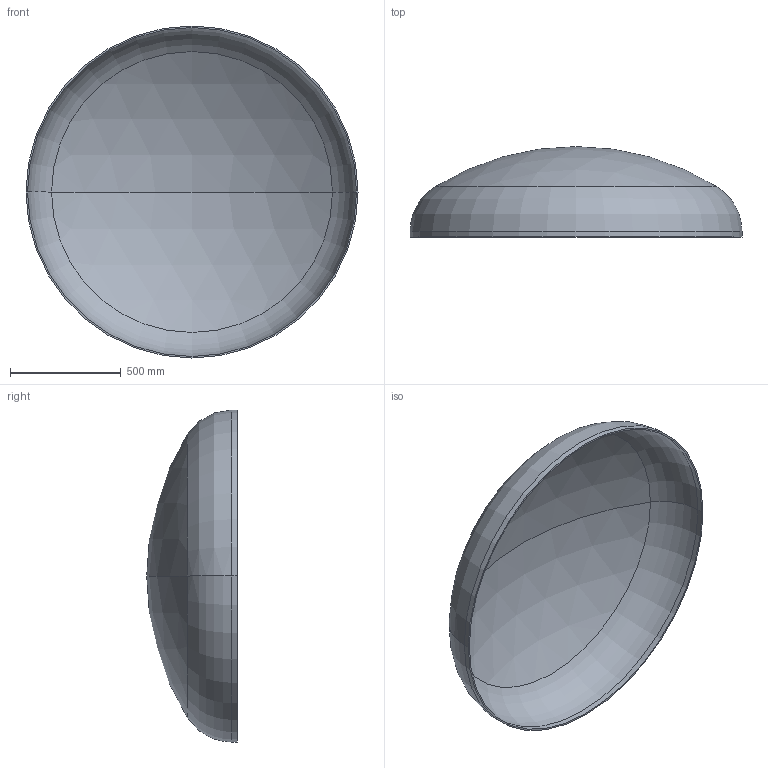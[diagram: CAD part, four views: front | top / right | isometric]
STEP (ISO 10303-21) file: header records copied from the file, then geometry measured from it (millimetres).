
FILE_DESCRIPTION (( 'STEP AP203' ), '1' );
FILE_NAME ('DIN 28013 Korbbogenform_-_Boden DIN 28013 - 1500 x 25 - I - s=7.step', '2016-07-01T10:34:08', ( '' ), ( '' ), 'SwSTEP 2.0', 'SolidWorks 2013', '' );
FILE_SCHEMA (( 'CONFIG_CONTROL_DESIGN' ));
Length unit declared in the file: millimetre
Products named in the file (1): DIN 28013 Korbbogenform_-_Boden DIN 28013 - 1500 x 25 - I - s=7
Bounding box: 1500 x 408.76 x 1500 mm (x, y, z)
Volume: 17834083.2 mm3; surface area: 5128385.7 mm2
Topology: 1 solids, 1 shells, 13 faces, 24 edges, 14 vertices
Faces by surface type: torus 4, cylinder 4, sphere 4, plane 1
Entity records: 407 total; most frequent: DIRECTION 72, CARTESIAN_POINT 52, ORIENTED_EDGE 48, AXIS2_PLACEMENT_3D 34, EDGE_CURVE 24, CIRCLE 20, VERTEX_POINT 14, EDGE_LOOP 14
